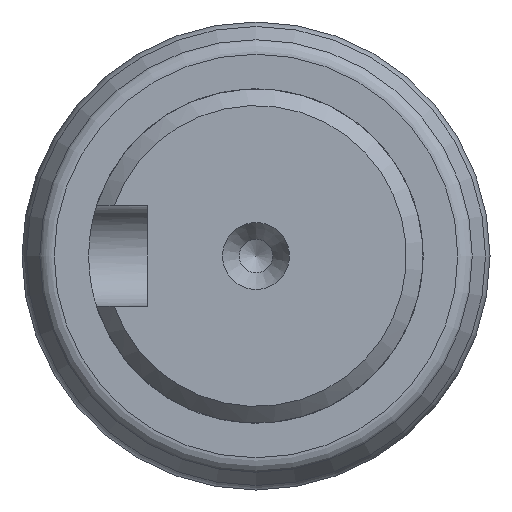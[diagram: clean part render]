
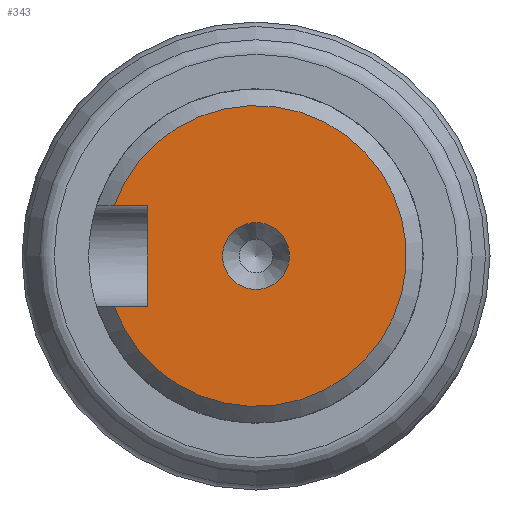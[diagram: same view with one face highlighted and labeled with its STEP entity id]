
A CAD part, left-side view. The second image highlights one B-rep face of the part: STEP entity #343.
In plain terms, the highlighted planar face has unit normal (-1, 0, 0).
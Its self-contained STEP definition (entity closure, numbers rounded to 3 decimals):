
#17=LINE($,#606,#26);
#22=LINE($,#617,#31);
#23=LINE($,#619,#32);
#26=VECTOR($,#484,1.985);
#31=VECTOR($,#495,1.985);
#32=VECTOR($,#498,6.);
#57=PLANE($,#396);
#79=FACE_BOUND($,#149,.T.);
#80=FACE_BOUND($,#150,.T.);
#149=EDGE_LOOP($,(#308));
#150=EDGE_LOOP($,(#309,#310,#311,#312));
#158=CIRCLE($,#358,2.);
#173=CIRCLE($,#386,9.);
#181=VERTEX_POINT($,#525);
#195=VERTEX_POINT($,#566);
#198=VERTEX_POINT($,#573);
#202=VERTEX_POINT($,#605);
#205=VERTEX_POINT($,#615);
#212=EDGE_CURVE($,#181,#181,#158,.T.);
#229=EDGE_CURVE($,#198,#195,#173,.T.);
#234=EDGE_CURVE($,#202,#195,#17,.T.);
#240=EDGE_CURVE($,#198,#205,#22,.T.);
#241=EDGE_CURVE($,#205,#202,#23,.T.);
#308=ORIENTED_EDGE($,*,*,#212,.T.);
#309=ORIENTED_EDGE($,*,*,#229,.F.);
#310=ORIENTED_EDGE($,*,*,#240,.T.);
#311=ORIENTED_EDGE($,*,*,#241,.T.);
#312=ORIENTED_EDGE($,*,*,#234,.T.);
#343=ADVANCED_FACE($,(#79,#80),#57,.T.);
#358=AXIS2_PLACEMENT_3D($,#526,#420,#421);
#386=AXIS2_PLACEMENT_3D($,#577,#476,#477);
#396=AXIS2_PLACEMENT_3D($,#624,#505,#506);
#420=DIRECTION('center_axis',(1.,0.,0.));
#421=DIRECTION('ref_axis',(0.,0.,1.));
#476=DIRECTION('center_axis',(1.,0.,0.));
#477=DIRECTION('ref_axis',(0.,-1.,0.));
#484=DIRECTION($,(0.,1.,0.));
#495=DIRECTION($,(0.,-1.,0.));
#498=DIRECTION($,(0.,0.,-1.));
#505=DIRECTION('center_axis',(-1.,0.,0.));
#506=DIRECTION('ref_axis',(0.,0.,1.));
#525=CARTESIAN_POINT('',(0.,0.,2.));
#526=CARTESIAN_POINT('Origin',(0.,0.,0.));
#566=CARTESIAN_POINT('',(0.,8.485,-3.));
#573=CARTESIAN_POINT('',(0.,8.485,3.));
#577=CARTESIAN_POINT('Origin',(0.,0.,0.));
#605=CARTESIAN_POINT('',(0.,6.5,-3.));
#606=CARTESIAN_POINT($,(0.,10.,-3.));
#615=CARTESIAN_POINT('',(0.,6.5,3.));
#617=CARTESIAN_POINT($,(0.,10.,3.));
#619=CARTESIAN_POINT($,(0.,6.5,0.));
#624=CARTESIAN_POINT('Origin',(0.,10.,0.));
